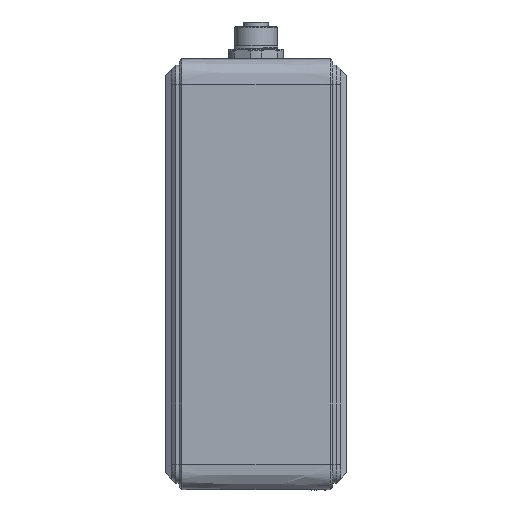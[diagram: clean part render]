
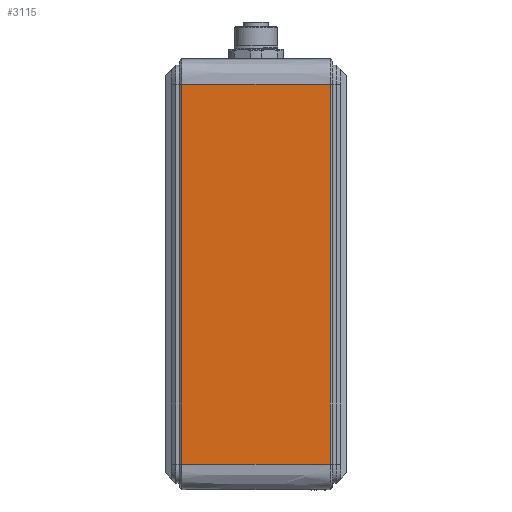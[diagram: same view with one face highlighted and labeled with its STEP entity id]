
A CAD part, left-side view. The second image highlights one B-rep face of the part: STEP entity #3115.
In plain terms, the highlighted planar face has unit normal (-1, 0, 0).
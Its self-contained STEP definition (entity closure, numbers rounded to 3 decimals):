
#3115=ADVANCED_FACE('',(#3917),#15081,.T.);
#3917=FACE_OUTER_BOUND('',#4761,.T.);
#4761=EDGE_LOOP('',(#6043,#6044,#6045,#6046));
#6043=ORIENTED_EDGE('',*,*,#9780,.F.);
#6044=ORIENTED_EDGE('',*,*,#9781,.F.);
#6045=ORIENTED_EDGE('',*,*,#9782,.F.);
#6046=ORIENTED_EDGE('',*,*,#9779,.F.);
#9779=EDGE_CURVE('',#13759,#13760,#11670,.T.);
#9780=EDGE_CURVE('',#13761,#13759,#11671,.T.);
#9781=EDGE_CURVE('',#13762,#13761,#11672,.T.);
#9782=EDGE_CURVE('',#13760,#13762,#11673,.T.);
#11670=B_SPLINE_CURVE_WITH_KNOTS('',3,(#31566,#31567,#31568,#31569),
 .UNSPECIFIED.,.F.,.F.,(4,4),(-46.4,0.),.UNSPECIFIED.);
#11671=B_SPLINE_CURVE_WITH_KNOTS('',1,(#31570,#31571),.UNSPECIFIED.,.F.,
 .F.,(2,2),(-119.,0.),.UNSPECIFIED.);
#11672=B_SPLINE_CURVE_WITH_KNOTS('',3,(#31572,#31573,#31574,#31575),
 .UNSPECIFIED.,.F.,.F.,(4,4),(-46.4,0.),.UNSPECIFIED.);
#11673=B_SPLINE_CURVE_WITH_KNOTS('',1,(#31576,#31577),.UNSPECIFIED.,.F.,
 .F.,(2,2),(-119.,0.),.UNSPECIFIED.);
#13759=VERTEX_POINT('',#28993);
#13760=VERTEX_POINT('',#28994);
#13761=VERTEX_POINT('',#28995);
#13762=VERTEX_POINT('',#28996);
#15081=PLANE('',#15599);
#15599=AXIS2_PLACEMENT_3D('',#17153,#16212,$);
#16212=DIRECTION('',(-1.,0.,0.));
#17153=CARTESIAN_POINT('',(-125.,-27.84,71.4));
#28993=CARTESIAN_POINT('',(-125.,23.2,59.5));
#28994=CARTESIAN_POINT('',(-125.,-23.2,59.5));
#28995=CARTESIAN_POINT('',(-125.,23.2,-59.5));
#28996=CARTESIAN_POINT('',(-125.,-23.2,-59.5));
#31566=CARTESIAN_POINT('',(-125.,23.2,59.5));
#31567=CARTESIAN_POINT('',(-125.,7.733,59.5));
#31568=CARTESIAN_POINT('',(-125.,-7.733,59.5));
#31569=CARTESIAN_POINT('',(-125.,-23.2,59.5));
#31570=CARTESIAN_POINT('',(-125.,23.2,-59.5));
#31571=CARTESIAN_POINT('',(-125.,23.2,59.5));
#31572=CARTESIAN_POINT('',(-125.,-23.2,-59.5));
#31573=CARTESIAN_POINT('',(-125.,-7.733,-59.5));
#31574=CARTESIAN_POINT('',(-125.,7.733,-59.5));
#31575=CARTESIAN_POINT('',(-125.,23.2,-59.5));
#31576=CARTESIAN_POINT('',(-125.,-23.2,59.5));
#31577=CARTESIAN_POINT('',(-125.,-23.2,-59.5));
